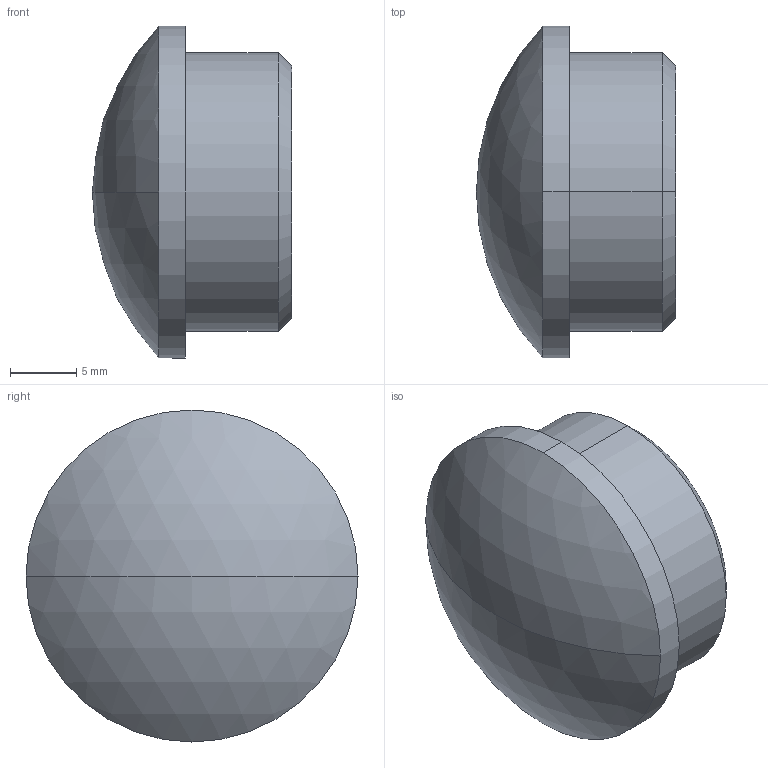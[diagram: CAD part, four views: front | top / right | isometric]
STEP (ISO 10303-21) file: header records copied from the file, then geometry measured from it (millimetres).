
FILE_DESCRIPTION (( 'STEP AP203' ), '1' );
FILE_NAME ('3D_GR1392_DN25x2_18380110.STEP', '2024-09-21T10:13:47', ( '' ), ( '' ), 'SwSTEP 2.0', 'SolidWorks 2024', '' );
FILE_SCHEMA (( 'CONFIG_CONTROL_DESIGN' ));
Length unit declared in the file: millimetre
Products named in the file (1): 3D_GR1392_DN25x2_18380110
Bounding box: 15 x 25 x 25 mm (x, y, z)
Volume: 5013.3 mm3; surface area: 1705.2 mm2
Topology: 1 solids, 1 shells, 10 faces, 20 edges, 13 vertices
Faces by surface type: cylinder 4, cone 2, sphere 2, plane 2
Entity records: 347 total; most frequent: DIRECTION 56, CARTESIAN_POINT 44, ORIENTED_EDGE 40, AXIS2_PLACEMENT_3D 25, EDGE_CURVE 20, CIRCLE 14, VERTEX_POINT 13, EDGE_LOOP 11
